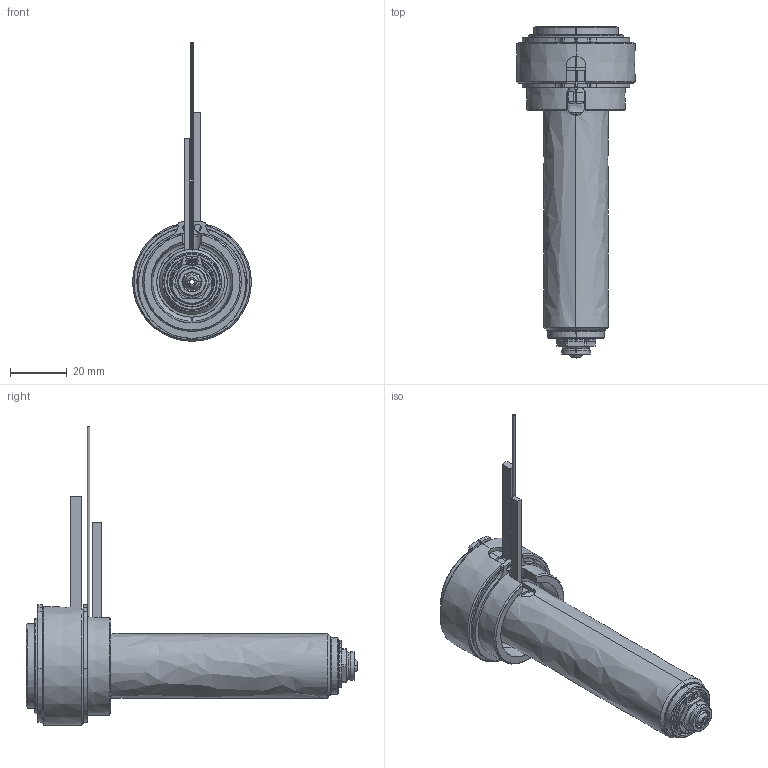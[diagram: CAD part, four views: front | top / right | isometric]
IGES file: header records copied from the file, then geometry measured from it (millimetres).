
Start section: SolidWorks IGES file using analytic representation for surfaces
Global section: file name: C:\Documents and Settings\ws-20\Desktop\TEM\UGER3552-M-A-1 [Øb-1.70  ØC-7.0].IGS; native system: SolidWorks 2012; preprocessor: SolidWorks 2012; author: ws-20; date: 120410.100618; units: millimetre
Bounding box: 42 x 117.4 x 105.6 mm (x, y, z)
Surface area: 37594.1 mm2 (no closed solid volume)
Topology: 0 solids, 0 shells, 204 faces, 3336 edges, 3336 vertices
Faces by surface type: revolution 132, bspline 72
